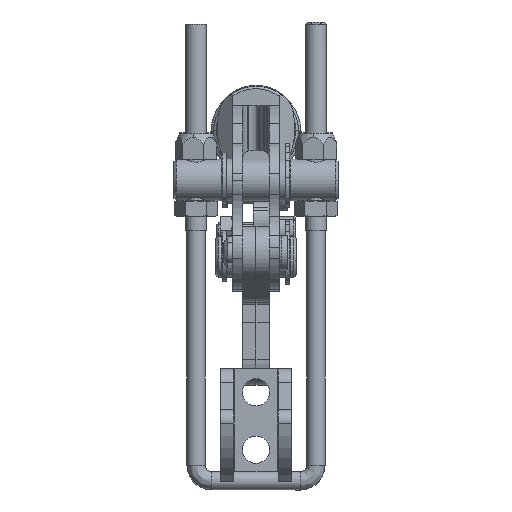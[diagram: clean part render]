
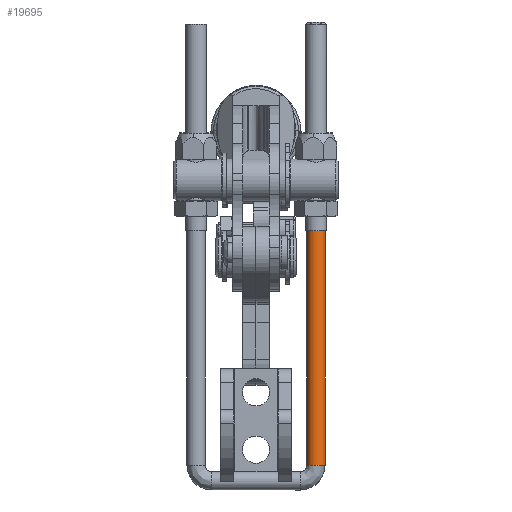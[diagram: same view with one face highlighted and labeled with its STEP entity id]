
A CAD part, left-side view. The second image highlights one B-rep face of the part: STEP entity #19695.
In plain terms, the highlighted cylindrical face has radius 1.75 mm (diameter 3.5 mm), a partial arc.
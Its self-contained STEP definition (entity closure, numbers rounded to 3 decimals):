
#267 = AXIS2_PLACEMENT_3D ( 'NONE', #21181, #12224, #5591 ) ;
#1340 = CARTESIAN_POINT ( 'NONE',  ( -64.717, -0.694, -54.543 ) ) ;
#1396 = DIRECTION ( 'NONE',  ( 0.006, 0., -1. ) ) ;
#2015 = CARTESIAN_POINT ( 'NONE',  ( -64.986, 2.806, -9.544 ) ) ;
#2407 = CARTESIAN_POINT ( 'NONE',  ( -64.717, 1.056, -54.543 ) ) ;
#3471 = VECTOR ( 'NONE', #11557, 1000. ) ;
#4233 = CYLINDRICAL_SURFACE ( 'NONE', #22400, 1.75 ) ;
#5064 = EDGE_CURVE ( 'NONE', #16929, #12368, #19083, .T. ) ;
#5591 = DIRECTION ( 'NONE',  ( 0., 1., 0. ) ) ;
#5976 = ORIENTED_EDGE ( 'NONE', *, *, #19478, .T. ) ;
#6247 = EDGE_CURVE ( 'NONE', #21210, #12763, #15106, .T. ) ;
#6367 = VECTOR ( 'NONE', #10471, 1000. ) ;
#6782 = CARTESIAN_POINT ( 'NONE',  ( -64.986, 1.056, -9.544 ) ) ;
#7003 = CARTESIAN_POINT ( 'NONE',  ( -64.717, -0.694, -54.543 ) ) ;
#8025 = CARTESIAN_POINT ( 'NONE',  ( -64.717, 2.806, -54.543 ) ) ;
#8208 = ORIENTED_EDGE ( 'NONE', *, *, #6247, .F. ) ;
#8832 = CARTESIAN_POINT ( 'NONE',  ( -64.717, 2.806, -54.543 ) ) ;
#9671 = EDGE_LOOP ( 'NONE', ( #11051, #10317, #5976, #8208 ) ) ;
#10139 = CIRCLE ( 'NONE', #267, 1.75 ) ;
#10317 = ORIENTED_EDGE ( 'NONE', *, *, #5064, .T. ) ;
#10471 = DIRECTION ( 'NONE',  ( -0.006, 0., 1. ) ) ;
#11051 = ORIENTED_EDGE ( 'NONE', *, *, #16010, .T. ) ;
#11383 = CARTESIAN_POINT ( 'NONE',  ( -64.986, -0.694, -9.544 ) ) ;
#11557 = DIRECTION ( 'NONE',  ( -0.006, 0., 1. ) ) ;
#12224 = DIRECTION ( 'NONE',  ( -0.006, 0., 1. ) ) ;
#12368 = VERTEX_POINT ( 'NONE', #11383 ) ;
#12763 = VERTEX_POINT ( 'NONE', #2015 ) ;
#13537 = DIRECTION ( 'NONE',  ( 0., 1., 0. ) ) ;
#13952 = CIRCLE ( 'NONE', #16147, 1.75 ) ;
#15106 = LINE ( 'NONE', #8025, #3471 ) ;
#16010 = EDGE_CURVE ( 'NONE', #21210, #16929, #10139, .T. ) ;
#16147 = AXIS2_PLACEMENT_3D ( 'NONE', #6782, #1396, #13537 ) ;
#16929 = VERTEX_POINT ( 'NONE', #7003 ) ;
#18217 = DIRECTION ( 'NONE',  ( 0., 1., 0. ) ) ;
#19083 = LINE ( 'NONE', #1340, #6367 ) ;
#19478 = EDGE_CURVE ( 'NONE', #12368, #12763, #13952, .T. ) ;
#19695 = ADVANCED_FACE ( 'NONE', ( #21910 ), #4233, .T. ) ;
#20290 = DIRECTION ( 'NONE',  ( -0.006, 0., 1. ) ) ;
#21181 = CARTESIAN_POINT ( 'NONE',  ( -64.717, 1.056, -54.543 ) ) ;
#21210 = VERTEX_POINT ( 'NONE', #8832 ) ;
#21910 = FACE_OUTER_BOUND ( 'NONE', #9671, .T. ) ;
#22400 = AXIS2_PLACEMENT_3D ( 'NONE', #2407, #20290, #18217 ) ;
